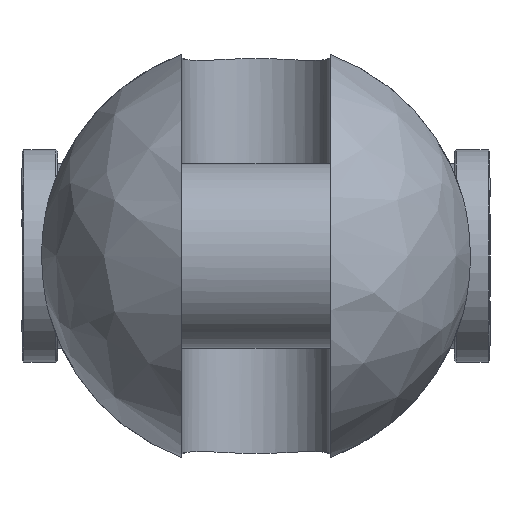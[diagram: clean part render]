
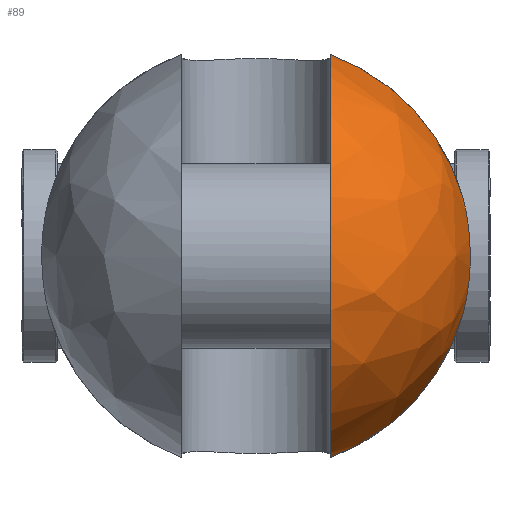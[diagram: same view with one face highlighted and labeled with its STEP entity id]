
A CAD part, left-side view. The second image highlights one B-rep face of the part: STEP entity #89.
In plain terms, the highlighted free-form (B-spline) face has degree [2, 2] with [9, 5] control points.
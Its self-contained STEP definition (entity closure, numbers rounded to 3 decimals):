
#89=ADVANCED_FACE('',(#164),#1301,.T.);
#164=FACE_OUTER_BOUND('',#249,.T.);
#249=EDGE_LOOP('',(#583,#584,#585,#586));
#583=ORIENTED_EDGE('',*,*,#805,.T.);
#584=ORIENTED_EDGE('',*,*,#833,.F.);
#585=ORIENTED_EDGE('',*,*,#845,.T.);
#586=ORIENTED_EDGE('',*,*,#825,.F.);
#805=EDGE_CURVE('',#1188,#1187,#1042,.T.);
#825=EDGE_CURVE('',#1188,#1200,#1052,.T.);
#833=EDGE_CURVE('',#1207,#1187,#1053,.T.);
#845=EDGE_CURVE('',#1207,#1200,#960,.T.);
#960=B_SPLINE_CURVE_WITH_KNOTS('',3,(#3146,#3147,#3148,#3149,#3150,#3151,
#3152,#3153,#3154,#3155,#3156,#3157,#3158,#3159),.UNSPECIFIED.,.F.,.F.,
(4,2,2,2,2,2,4),(0.,4.501,10.8,17.099,23.397,
29.696,34.197),.UNSPECIFIED.);
#1042=(
BOUNDED_CURVE()
B_SPLINE_CURVE(2,(#2890,#2891,#2892,#2893,#2894),.UNSPECIFIED.,.F.,.F.)
B_SPLINE_CURVE_WITH_KNOTS((3,2,3),(-178.249,-89.125,
0.),.UNSPECIFIED.)
CURVE()
GEOMETRIC_REPRESENTATION_ITEM()
RATIONAL_B_SPLINE_CURVE((1.,0.707,1.,0.707,1.))
REPRESENTATION_ITEM('')
);
#1052=(
BOUNDED_CURVE()
B_SPLINE_CURVE(2,(#3016,#3017,#3018),.UNSPECIFIED.,.F.,.F.)
B_SPLINE_CURVE_WITH_KNOTS((3,3),(0.,57.305),.UNSPECIFIED.)
CURVE()
GEOMETRIC_REPRESENTATION_ITEM()
RATIONAL_B_SPLINE_CURVE((1.,0.89,1.))
REPRESENTATION_ITEM('')
);
#1053=(
BOUNDED_CURVE()
B_SPLINE_CURVE(2,(#3073,#3074,#3075),.UNSPECIFIED.,.F.,.F.)
B_SPLINE_CURVE_WITH_KNOTS((3,3),(0.,57.305),.UNSPECIFIED.)
CURVE()
GEOMETRIC_REPRESENTATION_ITEM()
RATIONAL_B_SPLINE_CURVE((1.,0.89,1.))
REPRESENTATION_ITEM('')
);
#1187=VERTEX_POINT('',#2832);
#1188=VERTEX_POINT('',#2833);
#1200=VERTEX_POINT('',#2845);
#1207=VERTEX_POINT('',#2852);
#1301=(
BOUNDED_SURFACE()
B_SPLINE_SURFACE(2,2,((#2440,#2441,#2442,#2443,#2444),(#2445,#2446,#2447,
#2448,#2449),(#2450,#2451,#2452,#2453,#2454),(#2455,#2456,#2457,#2458,#2459),
(#2460,#2461,#2462,#2463,#2464),(#2465,#2466,#2467,#2468,#2469),(#2470,
#2471,#2472,#2473,#2474),(#2475,#2476,#2477,#2478,#2479),(#2480,#2481,#2482,
#2483,#2484)),.UNSPECIFIED.,.T.,.F.,.F.)
B_SPLINE_SURFACE_WITH_KNOTS((3,2,2,2,3),(3,2,3),(0.,95.033,190.066,
285.1,380.133),(0.,95.033,190.066),
 .UNSPECIFIED.)
GEOMETRIC_REPRESENTATION_ITEM()
RATIONAL_B_SPLINE_SURFACE(((1.,0.707,1.,0.707,1.),
(0.707,0.5,0.707,0.5,0.707),(1.,0.707,
1.,0.707,1.),(0.707,0.5,0.707,0.5,0.707),
(1.,0.707,1.,0.707,1.),(0.707,0.5,0.707,
0.5,0.707),(1.,0.707,1.,0.707,1.),(0.707,
0.5,0.707,0.5,0.707),(1.,0.707,1.,0.707,
1.)))
REPRESENTATION_ITEM('')
SURFACE()
);
#2440=CARTESIAN_POINT('',(-87.,0.,0.));
#2441=CARTESIAN_POINT('',(-87.,60.5,0.));
#2442=CARTESIAN_POINT('',(-26.5,60.5,0.));
#2443=CARTESIAN_POINT('',(34.,60.5,0.));
#2444=CARTESIAN_POINT('',(34.,0.,0.));
#2445=CARTESIAN_POINT('',(-87.,0.,0.));
#2446=CARTESIAN_POINT('',(-87.,60.5,60.5));
#2447=CARTESIAN_POINT('',(-26.5,60.5,60.5));
#2448=CARTESIAN_POINT('',(34.,60.5,60.5));
#2449=CARTESIAN_POINT('',(34.,0.,0.));
#2450=CARTESIAN_POINT('',(-87.,0.,0.));
#2451=CARTESIAN_POINT('',(-87.,0.,60.5));
#2452=CARTESIAN_POINT('',(-26.5,0.,60.5));
#2453=CARTESIAN_POINT('',(34.,0.,60.5));
#2454=CARTESIAN_POINT('',(34.,0.,0.));
#2455=CARTESIAN_POINT('',(-87.,0.,0.));
#2456=CARTESIAN_POINT('',(-87.,-60.5,60.5));
#2457=CARTESIAN_POINT('',(-26.5,-60.5,60.5));
#2458=CARTESIAN_POINT('',(34.,-60.5,60.5));
#2459=CARTESIAN_POINT('',(34.,0.,0.));
#2460=CARTESIAN_POINT('',(-87.,0.,0.));
#2461=CARTESIAN_POINT('',(-87.,-60.5,0.));
#2462=CARTESIAN_POINT('',(-26.5,-60.5,0.));
#2463=CARTESIAN_POINT('',(34.,-60.5,0.));
#2464=CARTESIAN_POINT('',(34.,0.,0.));
#2465=CARTESIAN_POINT('',(-87.,0.,0.));
#2466=CARTESIAN_POINT('',(-87.,-60.5,-60.5));
#2467=CARTESIAN_POINT('',(-26.5,-60.5,-60.5));
#2468=CARTESIAN_POINT('',(34.,-60.5,-60.5));
#2469=CARTESIAN_POINT('',(34.,0.,0.));
#2470=CARTESIAN_POINT('',(-87.,0.,0.));
#2471=CARTESIAN_POINT('',(-87.,0.,-60.5));
#2472=CARTESIAN_POINT('',(-26.5,0.,-60.5));
#2473=CARTESIAN_POINT('',(34.,0.,-60.5));
#2474=CARTESIAN_POINT('',(34.,0.,0.));
#2475=CARTESIAN_POINT('',(-87.,0.,0.));
#2476=CARTESIAN_POINT('',(-87.,60.5,-60.5));
#2477=CARTESIAN_POINT('',(-26.5,60.5,-60.5));
#2478=CARTESIAN_POINT('',(34.,60.5,-60.5));
#2479=CARTESIAN_POINT('',(34.,0.,0.));
#2480=CARTESIAN_POINT('',(-87.,0.,0.));
#2481=CARTESIAN_POINT('',(-87.,60.5,0.));
#2482=CARTESIAN_POINT('',(-26.5,60.5,0.));
#2483=CARTESIAN_POINT('',(34.,60.5,0.));
#2484=CARTESIAN_POINT('',(34.,0.,0.));
#2832=CARTESIAN_POINT('',(-26.5,-21.,-56.738));
#2833=CARTESIAN_POINT('',(-26.5,-21.,56.738));
#2845=CARTESIAN_POINT('',(-26.5,-58.322,16.086));
#2852=CARTESIAN_POINT('',(-26.5,-58.322,-16.086));
#2890=CARTESIAN_POINT('',(-26.5,-21.,56.738));
#2891=CARTESIAN_POINT('',(-83.238,-21.,56.738));
#2892=CARTESIAN_POINT('',(-83.238,-21.,0.));
#2893=CARTESIAN_POINT('',(-83.238,-21.,-56.738));
#2894=CARTESIAN_POINT('',(-26.5,-21.,-56.738));
#3016=CARTESIAN_POINT('',(-26.5,-21.,56.738));
#3017=CARTESIAN_POINT('',(-26.5,-50.078,45.976));
#3018=CARTESIAN_POINT('',(-26.5,-58.322,16.086));
#3073=CARTESIAN_POINT('',(-26.5,-58.322,-16.086));
#3074=CARTESIAN_POINT('',(-26.5,-50.078,-45.976));
#3075=CARTESIAN_POINT('',(-26.5,-21.,-56.738));
#3146=CARTESIAN_POINT('',(-26.5,-58.322,-16.086));
#3147=CARTESIAN_POINT('',(-27.264,-58.669,-14.827));
#3148=CARTESIAN_POINT('',(-27.947,-58.977,-13.499));
#3149=CARTESIAN_POINT('',(-29.349,-59.604,-10.198));
#3150=CARTESIAN_POINT('',(-29.976,-59.881,-8.175));
#3151=CARTESIAN_POINT('',(-30.801,-60.245,-4.081));
#3152=CARTESIAN_POINT('',(-31.,-60.332,-2.011));
#3153=CARTESIAN_POINT('',(-31.,-60.332,2.011));
#3154=CARTESIAN_POINT('',(-30.801,-60.245,4.081));
#3155=CARTESIAN_POINT('',(-29.976,-59.881,8.175));
#3156=CARTESIAN_POINT('',(-29.349,-59.604,10.198));
#3157=CARTESIAN_POINT('',(-27.947,-58.977,13.499));
#3158=CARTESIAN_POINT('',(-27.264,-58.669,14.827));
#3159=CARTESIAN_POINT('',(-26.5,-58.322,16.086));
